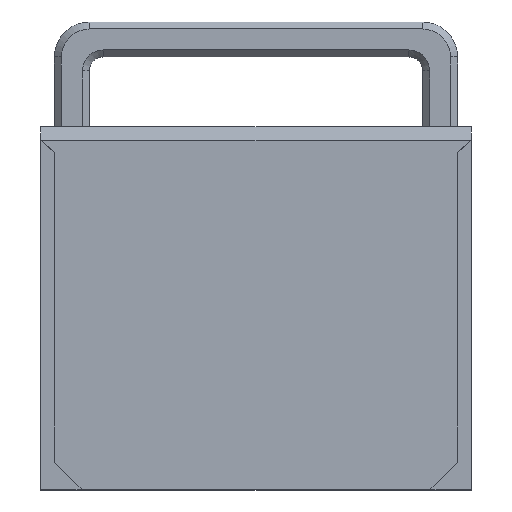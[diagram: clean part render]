
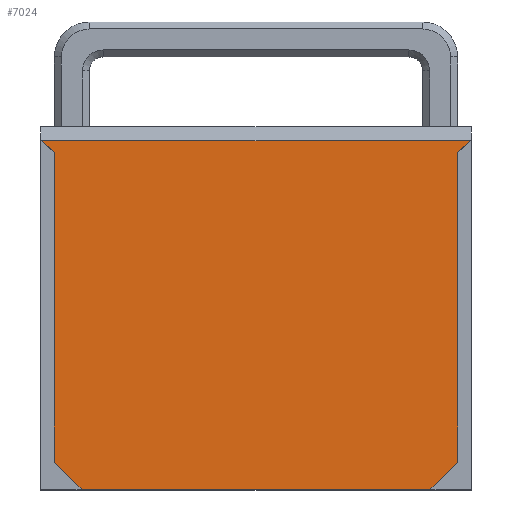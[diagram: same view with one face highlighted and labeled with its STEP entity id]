
A CAD part, top view. The second image highlights one B-rep face of the part: STEP entity #7024.
In plain terms, the highlighted planar face has unit normal (0, 0, 1).
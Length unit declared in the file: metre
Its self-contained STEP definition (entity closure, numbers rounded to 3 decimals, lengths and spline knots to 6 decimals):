
#337=LINE('',#10475,#975);
#400=LINE('',#10918,#1038);
#405=LINE('',#10928,#1043);
#422=LINE('',#10964,#1060);
#465=LINE('',#11071,#1103);
#474=LINE('',#11087,#1112);
#475=LINE('',#11089,#1113);
#476=LINE('',#11091,#1114);
#975=VECTOR('',#8328,1.);
#1038=VECTOR('',#8591,1.);
#1043=VECTOR('',#8598,1.);
#1060=VECTOR('',#8625,1.);
#1103=VECTOR('',#8730,1.);
#1112=VECTOR('',#8745,1.);
#1113=VECTOR('',#8746,1.);
#1114=VECTOR('',#8747,1.);
#2179=ORIENTED_EDGE('',*,*,#4233,.T.);
#2180=ORIENTED_EDGE('',*,*,#4242,.T.);
#2181=ORIENTED_EDGE('',*,*,#4243,.T.);
#2182=ORIENTED_EDGE('',*,*,#4244,.T.);
#2183=ORIENTED_EDGE('',*,*,#3965,.T.);
#2184=ORIENTED_EDGE('',*,*,#4161,.T.);
#2185=ORIENTED_EDGE('',*,*,#4156,.F.);
#2186=ORIENTED_EDGE('',*,*,#4178,.T.);
#3965=EDGE_CURVE('',#5041,#5040,#337,.T.);
#4156=EDGE_CURVE('',#5231,#5232,#400,.T.);
#4161=EDGE_CURVE('',#5040,#5232,#405,.T.);
#4178=EDGE_CURVE('',#5231,#5248,#422,.T.);
#4233=EDGE_CURVE('',#5248,#5281,#465,.T.);
#4242=EDGE_CURVE('',#5281,#5286,#474,.F.);
#4243=EDGE_CURVE('',#5286,#5287,#475,.T.);
#4244=EDGE_CURVE('',#5287,#5041,#476,.F.);
#5040=VERTEX_POINT('',#10474);
#5041=VERTEX_POINT('',#10476);
#5231=VERTEX_POINT('',#10919);
#5232=VERTEX_POINT('',#10920);
#5248=VERTEX_POINT('',#10963);
#5281=VERTEX_POINT('',#11070);
#5286=VERTEX_POINT('',#11088);
#5287=VERTEX_POINT('',#11090);
#6076=EDGE_LOOP('',(#2179,#2180,#2181,#2182,#2183,#2184,#2185,#2186));
#6480=FACE_BOUND('',#6076,.T.);
#6861=PLANE('',#7586);
#7024=ADVANCED_FACE('',(#6480),#6861,.F.);
#7586=AXIS2_PLACEMENT_3D('',#11086,#8743,#8744);
#8328=DIRECTION('',(1.,0.,0.));
#8591=DIRECTION('',(0.,-1.,0.));
#8598=DIRECTION('',(0.707,0.707,0.));
#8625=DIRECTION('',(0.707,0.707,0.));
#8730=DIRECTION('',(-1.,0.,0.));
#8743=DIRECTION('',(0.,0.,-1.));
#8744=DIRECTION('',(-1.,0.,0.));
#8745=DIRECTION('',(-0.707,0.707,0.));
#8746=DIRECTION('',(0.,-1.,0.));
#8747=DIRECTION('',(-0.707,0.707,0.));
#10474=CARTESIAN_POINT('',(-0.1646,0.01415,0.00825));
#10475=CARTESIAN_POINT('',(0.003,0.01415,0.00825));
#10476=CARTESIAN_POINT('',(-0.2144,0.01415,0.00825));
#10918=CARTESIAN_POINT('',(-0.1606,0.712841,0.00825));
#10919=CARTESIAN_POINT('',(-0.1606,0.0624,0.00825));
#10920=CARTESIAN_POINT('',(-0.1606,0.01815,0.00825));
#10928=CARTESIAN_POINT('',(-0.1646,0.01415,0.00825));
#10963=CARTESIAN_POINT('',(-0.15885,0.06415,0.00825));
#10964=CARTESIAN_POINT('',(-0.15865,0.06435,0.00825));
#11070=CARTESIAN_POINT('',(-0.22015,0.06415,0.00825));
#11071=CARTESIAN_POINT('',(-0.20835,0.06415,0.00825));
#11086=CARTESIAN_POINT('',(0.003,0.712841,0.00825));
#11087=CARTESIAN_POINT('',(-0.21835,0.06235,0.00825));
#11088=CARTESIAN_POINT('',(-0.2184,0.0624,0.00825));
#11089=CARTESIAN_POINT('',(-0.2184,0.712841,0.00825));
#11090=CARTESIAN_POINT('',(-0.2184,0.01815,0.00825));
#11091=CARTESIAN_POINT('',(-0.2184,0.01815,0.00825));
